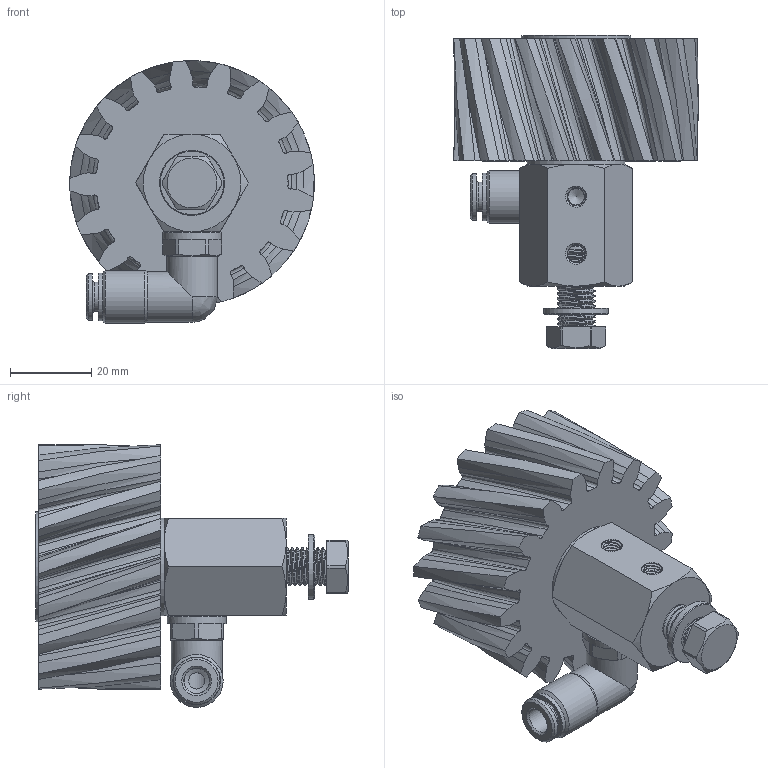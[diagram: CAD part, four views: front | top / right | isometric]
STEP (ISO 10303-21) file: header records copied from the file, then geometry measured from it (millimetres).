
FILE_DESCRIPTION (( 'STEP AP214' ), '1' );
FILE_NAME ('012_13_03_30_17BLZ.STEP', '2026-04-14T09:08:58', ( '' ), ( '' ), 'SwSTEP 2.0', 'SolidWorks 2022', '' );
FILE_SCHEMA (( 'AUTOMOTIVE_DESIGN' ));
Length unit declared in the file: millimetre
Products named in the file (13): 012_06_Senkschraube; Modul_3_S_L; Schraube_M8_20; U_Scheibe_8,4; OR 7.2X1.9_1; H202242_HDS022_6_M10X1_08.05.17(1); 12012_06_00_Scheibe-CRS-VA.SLDASM; DR6-C_HDX_25.07.16_1; RIVOLUZIONE_0_2; RH202242; 012_13_03_30_17BLZ; 12012_06_01_Scheibe-CRS-VA_27.SLDASM; 012_13b_01_winklige_Achse_lang_M8_1
Assembly tree (12 placements, depth 3):
  012_13_03_30_17BLZ
    012_13b_01_winklige_Achse_lang_M8_1
    Schraube_M8_20
    U_Scheibe_8,4
    H202242_HDS022_6_M10X1_08.05.17(1)
      OR 7.2X1.9_1
      RH202242
      DR6-C_HDX_25.07.16_1
      RIVOLUZIONE_0_2
    12012_06_00_Scheibe-CRS-VA.SLDASM
    12012_06_01_Scheibe-CRS-VA_27.SLDASM
    012_06_Senkschraube
    Modul_3_S_L
Bounding box: 60.09 x 76.9 x 64.54 mm (x, y, z)
Volume: 89196.7 mm3; surface area: 28430.1 mm2
Topology: 11 solids, 11 shells, 714 faces, 1957 edges, 1298 vertices
Faces by surface type: plane 317, bspline 269, cylinder 72, cone 53, torus 3
Full cylindrical faces by diameter (mm): 3 x1, 4 x2, 6 x1, 6.2 x1, 6.3 x1, 6.5 x1, 7.2 x1, 8.4 x1, 8.5 x1, 9 x10, 9.9 x1, 10 x3, 10.1 x2, 10.3 x1, 11.5 x1, 11.7 x1, 12.5 x2, 13 x1, 14.5 x1, 16 x1, 24 x1, 27 x1
Entity records: 80524 total; most frequent: CARTESIAN_POINT 63801, ORIENTED_EDGE 3622, DIRECTION 2286, EDGE_CURVE 1811, VERTEX_POINT 1233, VECTOR 1028, LINE 1028, EDGE_LOOP 828
